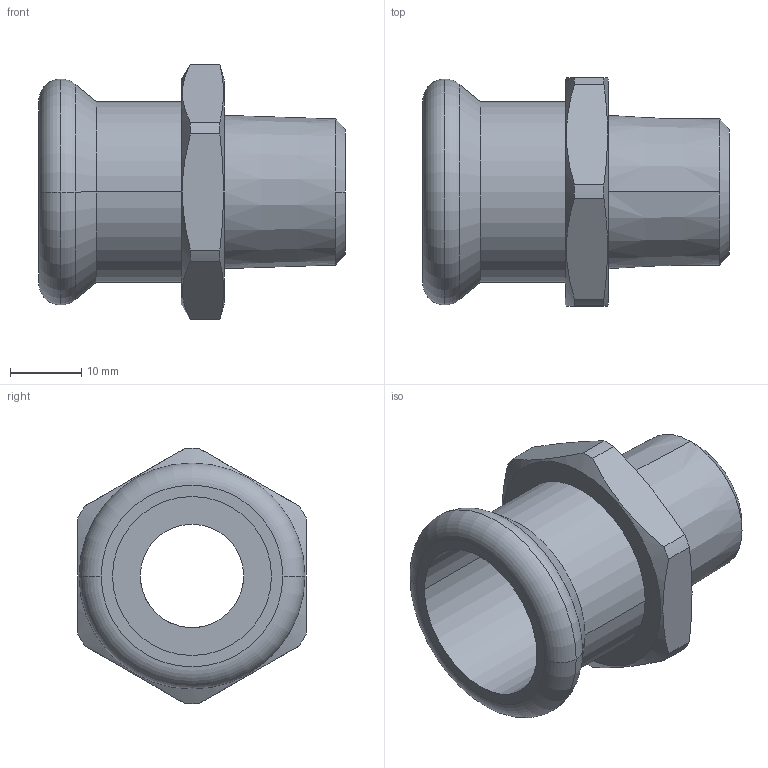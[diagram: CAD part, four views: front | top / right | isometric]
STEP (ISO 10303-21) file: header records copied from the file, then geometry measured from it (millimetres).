
FILE_DESCRIPTION(('CoCreate Modeling STEP Export'),'2;1');
FILE_NAME('C1405 22xR1-2.stp','2014-11-07T14:17:56',(''),(''),'CoCreate Modeling STEP processor for AP214 (Solid Model)','CoCreate Modeling 17.00A 17-Jun-2010 (C) Parametric Technology GmbH','');
FILE_SCHEMA(('AUTOMOTIVE_DESIGN { 1 0 10303 214 1 1 1 1 }'));
Length unit declared in the file: millimetre
Products named in the file (2): C1405_22xR1-2
Assembly tree (1 placements, depth 2):
  C1405_22xR1-2
    C1405_22xR1-2
Bounding box: 43 x 32 x 35.89 mm (x, y, z)
Volume: 10784.8 mm3; surface area: 7475.6 mm2
Topology: 1 solids, 1 shells, 37 faces, 92 edges, 60 vertices
Faces by surface type: cylinder 12, plane 11, cone 10, torus 4
Entity records: 1741 total; most frequent: CARTESIAN_POINT 913, ORIENTED_EDGE 184, DIRECTION 134, EDGE_CURVE 92, VERTEX_POINT 60, AXIS2_PLACEMENT_3D 53, EDGE_LOOP 42, FACE_OUTER_BOUND 37
